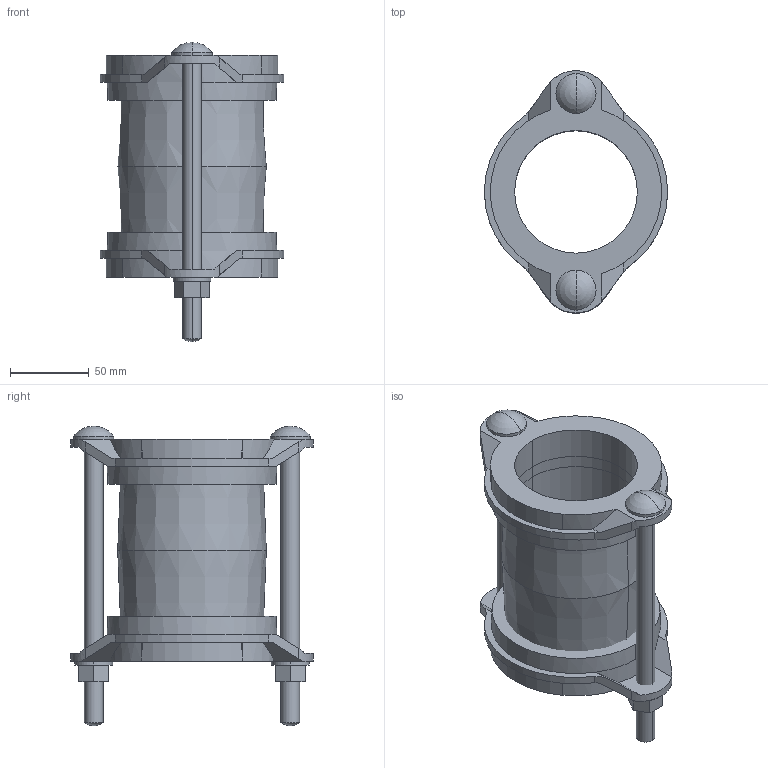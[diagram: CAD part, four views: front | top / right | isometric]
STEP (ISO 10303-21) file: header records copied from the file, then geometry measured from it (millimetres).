
FILE_DESCRIPTION((''),'2;1');
FILE_NAME('FLEXLOCK_COUPLING_76-1_ASM','2020-07-29T',('MReader'),(''),'CREO PARAMETRIC BY PTC INC, 2016130','CREO PARAMETRIC BY PTC INC, 2016130','');
FILE_SCHEMA(('CONFIG_CONTROL_DESIGN'));
Length unit declared in the file: millimetre
Products named in the file (5): FLEXLOCK_SLEEVE_76-1; FLEXLOCK_ENDRING_76-1_AF0; FLEXLOCK_ENDRING_76-1; FLEXLOCK_M12_180; FLEXLOCK_COUPLING_76-1_ASM
Assembly tree (5 placements, depth 2):
  FLEXLOCK_COUPLING_76-1_ASM
    FLEXLOCK_SLEEVE_76-1
    FLEXLOCK_ENDRING_76-1_AF0
    FLEXLOCK_ENDRING_76-1
    FLEXLOCK_M12_180  x2
Bounding box: 116.5 x 154 x 190.33 mm (x, y, z)
Volume: 531189.8 mm3; surface area: 139187.3 mm2
Topology: 5 solids, 5 shells, 122 faces, 320 edges, 206 vertices
Faces by surface type: plane 68, cylinder 30, cone 16, sphere 8
Entity records: 3673 total; most frequent: CARTESIAN_POINT 727, DIRECTION 596, ORIENTED_EDGE 592, EDGE_CURVE 296, AXIS2_PLACEMENT_3D 217, VERTEX_POINT 196, VECTOR 162, LINE 162
